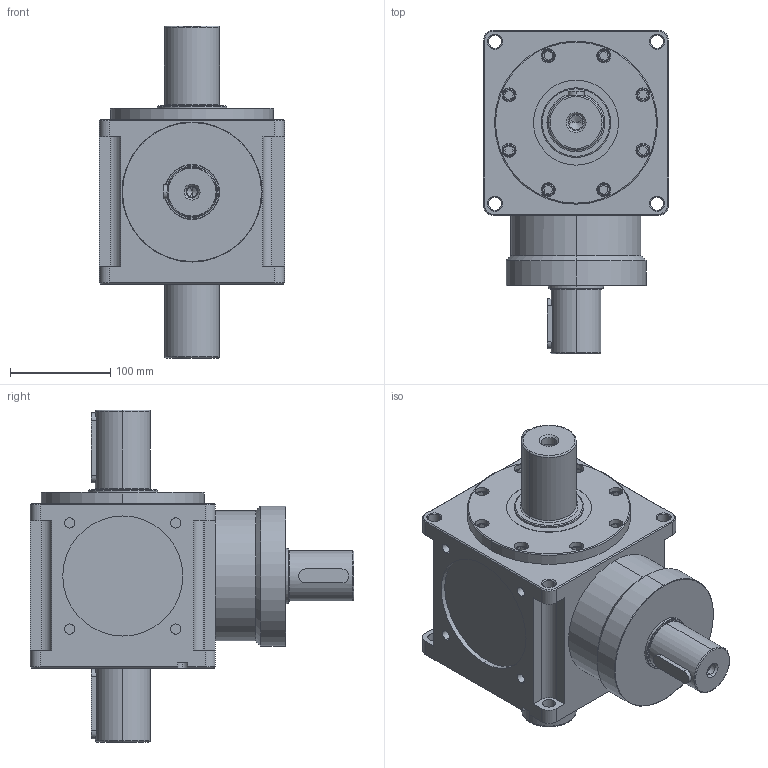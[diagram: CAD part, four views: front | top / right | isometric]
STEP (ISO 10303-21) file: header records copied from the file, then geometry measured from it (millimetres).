
FILE_DESCRIPTION (( 'STEP AP214' ), '1' );
FILE_NAME ('CCT185A-002-2P.STEP', '2025-05-26T05:18:44', ( '微软用户' ), ( '微软中国' ), 'SwSTEP 2.0', 'SolidWorks 2024', '' );
FILE_SCHEMA (( 'AUTOMOTIVE_DESIGN' ));
Length unit declared in the file: millimetre
Products named in the file (1): CCT185A-002-2P
Bounding box: 185 x 323.5 x 332 mm (x, y, z)
Volume: 6760172.3 mm3; surface area: 301691 mm2
Topology: 1 solids, 1 shells, 362 faces, 829 edges, 521 vertices
Faces by surface type: plane 149, cylinder 137, cone 42, torus 34
Entity records: 10492 total; most frequent: CARTESIAN_POINT 1965, DIRECTION 1913, ORIENTED_EDGE 1646, EDGE_CURVE 823, AXIS2_PLACEMENT_3D 735, VERTEX_POINT 521, VECTOR 443, LINE 443
